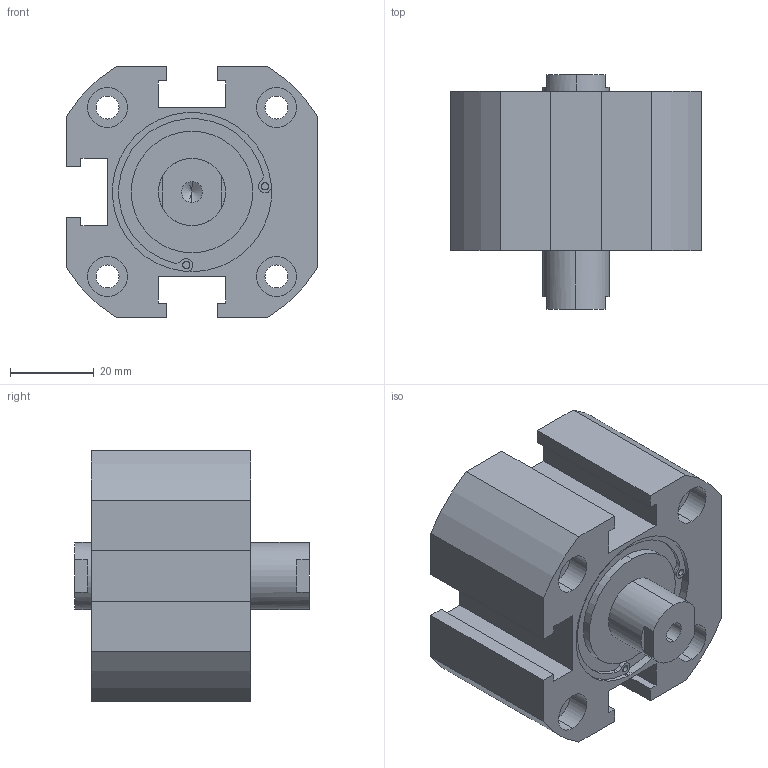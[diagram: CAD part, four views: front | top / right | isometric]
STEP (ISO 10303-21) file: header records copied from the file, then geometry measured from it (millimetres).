
FILE_DESCRIPTION (( 'STEP AP203' ), '1' );
FILE_NAME ('XC#7-40-10.STEP', '2016-05-23T08:25:01', ( '' ), ( '' ), 'SwSTEP 2.0', 'SolidWorks 2014', '' );
FILE_SCHEMA (( 'CONFIG_CONTROL_DESIGN' ));
Length unit declared in the file: millimetre
Products named in the file (1): XC#7-40-10
Bounding box: 60 x 56 x 60 mm (x, y, z)
Volume: 105543.3 mm3; surface area: 22876.8 mm2
Topology: 1 solids, 1 shells, 149 faces, 369 edges, 238 vertices
Faces by surface type: cylinder 77, plane 60, cone 12
Entity records: 4514 total; most frequent: DIRECTION 831, CARTESIAN_POINT 749, ORIENTED_EDGE 722, EDGE_CURVE 361, AXIS2_PLACEMENT_3D 320, VERTEX_POINT 238, LINE 191, VECTOR 191
